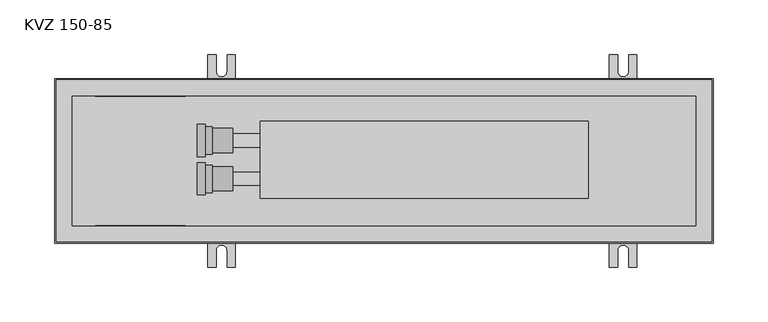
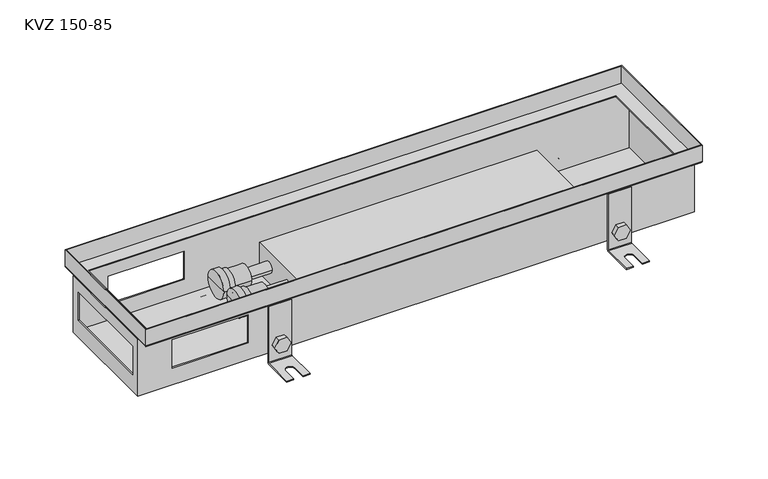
"""IFC4 building model written with IfcOpenShell, lengths in millimetres: proxy geometry, TECHNO_Конвектор встраиваемый_Power_KVZ_150_65-85-105 : KVZ 150-85."""

from ifc_helpers import new_model, si_unit, point, frame, frame_2d, origin, place, context, project, spatial, polyline, circle_curve, ellipse_curve, trimmed, segment, composite_curve, outline, extrude, faceted_brep, source, transform, mapped, element, save
from ifc_brep_helpers import plane_surface, cylinder_surface, revolved_surface, advanced_brep


def kvz_150_85_427afdff(model_context):
    return source(origin(), model_context, "Body", "SolidModel", [
        extrude(outline(composite_curve([segment(trimmed(circle_curve(frame_2d((-75.5, 518.0)), 7.5), [point((-75.5, 510.5))], [point((-75.5, 525.5))], False, "CARTESIAN"), True, "CONTINUOUS"), segment(trimmed(circle_curve(frame_2d((-75.5, 518.0)), 7.5), [point((-75.5, 525.5))], [point((-75.5, 510.5))], False, "CARTESIAN"), True, "CONTINUOUS")], self_intersect=False)), frame((0.0, 60.2, 0.0), z_axis=(0.0, 1.0, 0.0), x_axis=(0.0, 0.0, 1.0)), (0.0, 0.0, 1.0), 1.5),
        extrude(outline(polyline([(-75.5, 509.339746), (-83.0, 513.669873), (-83.0, 522.330127), (-75.5, 526.660254), (-68.0, 522.330127), (-68.0, 513.669873), (-75.5, 509.339746)])), frame((0.0, 62.9, 0.0), z_axis=(0.0, 1.0, 0.0), x_axis=(0.0, 0.0, 1.0)), (0.0, 0.0, 1.0), 5.1),
        advanced_brep(
        [(530.5, 62.9, -30.5), (530.5, 61.7, -30.5), (530.5, 61.7, -93.5), (530.5, 63.7, -95.5), (530.5, 96.7, -95.5), (530.5, 96.7, -94.3), (530.5, 63.7, -94.3), (530.5, 62.9, -93.5), (505.5, 62.9, -30.5), (505.5, 62.9, -93.5), (505.5, 63.7, -94.3), (505.5, 96.7, -94.3), (505.5, 96.7, -95.5), (505.5, 63.7, -95.5), (505.5, 61.7, -93.5), (505.5, 61.7, -30.5), (523.0, 96.7, -94.3), (523.0, 81.7, -94.3), (513.0, 81.7, -94.3), (513.0, 96.7, -94.3), (513.0, 96.7, -95.5), (523.0, 96.7, -95.5), (513.0, 81.7, -95.5), (523.0, 81.7, -95.5)],
        [
            (0, 1),
            (1, 2),
            (2, 3, circle_curve(frame((530.5, 63.7, -93.5), z_axis=(1.0, 0.0, 0.0), x_axis=(0.0, 1.0, 0.0)), 2.0)),
            (3, 4),
            (4, 5),
            (5, 6),
            (6, 7, circle_curve(frame((530.5, 63.7, -93.5), z_axis=(-1.0, 0.0, 0.0), x_axis=(0.0, 1.0, 0.0)), 0.8)),
            (7, 0),
            (8, 9),
            (9, 10, circle_curve(frame((505.5, 63.7, -93.5), z_axis=(1.0, 0.0, 0.0), x_axis=(0.0, 1.0, 0.0)), 0.8)),
            (10, 11),
            (11, 12),
            (12, 13),
            (13, 14, circle_curve(frame((505.5, 63.7, -93.5), z_axis=(-1.0, 0.0, 0.0), x_axis=(0.0, 1.0, 0.0)), 2.0)),
            (14, 15),
            (15, 8),
            (7, 9),
            (8, 0),
            (6, 10),
            (5, 16),
            (16, 17),
            (17, 18, circle_curve(frame((518.0, 81.7, -94.3), z_axis=(0.0, 0.0, -1.0), x_axis=(1.0, 0.0, 0.0)), 5.0)),
            (18, 19),
            (19, 11),
            (19, 20),
            (20, 12),
            (4, 21),
            (21, 16),
            (3, 13),
            (20, 22),
            (22, 23, circle_curve(frame((518.0, 81.7, -95.5), z_axis=(0.0, 0.0, 1.0), x_axis=(1.0, 0.0, 0.0)), 5.0)),
            (23, 21),
            (2, 14),
            (1, 15),
            (18, 22),
            (23, 17),
        ],
        [
            plane_surface(frame((530.5, 62.9, -30.5), z_axis=(1.0, 0.0, 0.0), x_axis=(0.0, 0.0, -1.0))),
            plane_surface(frame((505.5, 62.9, -30.5), z_axis=(-1.0, 0.0, 0.0), x_axis=(0.0, 0.0, 1.0))),
            plane_surface(frame((530.5, 62.9, -30.5), z_axis=(0.0, 1.0, 0.0), x_axis=(-1.0, 0.0, 0.0))),
            revolved_surface(polyline([(505.5, 64.5, -93.5), (530.5, 64.5, -93.5)]), (505.5, 63.7, -93.5), (-1.0, 0.0, 0.0)),
            plane_surface(frame((530.5, 63.7, -94.3), z_axis=(0.0, 0.0, 1.0), x_axis=(-1.0, 0.0, 0.0))),
            plane_surface(frame((530.5, 96.7, -94.3), z_axis=(0.0, 1.0, 0.0), x_axis=(-1.0, 0.0, 0.0))),
            plane_surface(frame((530.5, 96.7, -95.5), z_axis=(0.0, 0.0, -1.0), x_axis=(-1.0, 0.0, 0.0))),
            cylinder_surface(frame((505.5, 63.7, -93.5), z_axis=(1.0, 0.0, 0.0), x_axis=(0.0, 1.0, 0.0)), 2.0),
            plane_surface(frame((530.5, 61.7, -93.5), z_axis=(0.0, -1.0, 0.0), x_axis=(-1.0, 0.0, 0.0))),
            plane_surface(frame((530.5, 61.7, -30.5), z_axis=(0.0, 0.0, 1.0), x_axis=(-1.0, 0.0, 0.0))),
            plane_surface(frame((513.0, 81.7, -94.3), z_axis=(1.0, 0.0, 0.0), x_axis=(0.0, 0.0, -1.0))),
            plane_surface(frame((523.0, 96.7, -94.3), z_axis=(-1.0, 0.0, 0.0), x_axis=(0.0, 0.0, -1.0))),
            revolved_surface(polyline([(523.0, 81.7, -94.3), (523.0, 81.7, -95.5)]), (518.0, 81.7, -95.5), (0.0, 0.0, 1.0)),
        ],
        [
            (0, [[1, 2, 3, 4, 5, 6, 7, 8]]),
            (1, [[9, 10, 11, 12, 13, 14, 15, 16]]),
            (2, [[17, -9, 18, -8]]),
            (3, [[19, -10, -17, -7]]),
            (4, [[20, 21, 22, 23, 24, -11, -19, -6]]),
            (5, [[-24, 25, 26, -12]]),
            (5, [[27, 28, -20, -5]]),
            (6, [[29, -13, -26, 30, 31, 32, -27, -4]]),
            (7, [[33, -14, -29, -3]]),
            (8, [[34, -15, -33, -2]]),
            (9, [[-18, -16, -34, -1]]),
            (10, [[-30, -25, -23, 35]]),
            (11, [[-21, -28, -32, 36]]),
            (12, [[-22, -36, -31, -35]]),
        ],
    ),
        extrude(outline(composite_curve([segment(trimmed(circle_curve(frame_2d((-75.5, 518.0)), 7.5), [point((-75.5, 510.5))], [point((-75.5, 525.5))], False, "CARTESIAN"), True, "CONTINUOUS"), segment(trimmed(circle_curve(frame_2d((-75.5, 518.0)), 7.5), [point((-75.5, 525.5))], [point((-75.5, 510.5))], False, "CARTESIAN"), True, "CONTINUOUS")], self_intersect=False)), frame((0.0, -61.7, 0.0), z_axis=(0.0, 1.0, 0.0), x_axis=(0.0, 0.0, 1.0)), (0.0, 0.0, 1.0), 1.5),
        extrude(outline(polyline([(-75.5, 509.339746), (-83.0, 513.669873), (-83.0, 522.330127), (-75.5, 526.660254), (-68.0, 522.330127), (-68.0, 513.669873), (-75.5, 509.339746)])), frame((0.0, -68.0, 0.0), z_axis=(0.0, 1.0, 0.0), x_axis=(0.0, 0.0, 1.0)), (0.0, 0.0, 1.0), 5.1),
        advanced_brep(
        [(530.5, -62.9, -30.5), (530.5, -62.9, -93.5), (530.5, -63.7, -94.3), (530.5, -96.7, -94.3), (530.5, -96.7, -95.5), (530.5, -63.7, -95.5), (530.5, -61.7, -93.5), (530.5, -61.7, -30.5), (505.5, -62.9, -30.5), (505.5, -61.7, -30.5), (505.5, -61.7, -93.5), (505.5, -63.7, -95.5), (505.5, -96.7, -95.5), (505.5, -96.7, -94.3), (505.5, -63.7, -94.3), (505.5, -62.9, -93.5), (513.0, -96.7, -94.3), (513.0, -81.7, -94.3), (523.0, -81.7, -94.3), (523.0, -96.7, -94.3), (523.0, -96.7, -95.5), (513.0, -96.7, -95.5), (523.0, -81.7, -95.5), (513.0, -81.7, -95.5)],
        [
            (0, 1),
            (1, 2, circle_curve(frame((530.5, -63.7, -93.5), z_axis=(-1.0, 0.0, 0.0), x_axis=(0.0, -1.0, 0.0)), 0.8)),
            (2, 3),
            (3, 4),
            (4, 5),
            (5, 6, circle_curve(frame((530.5, -63.7, -93.5), z_axis=(1.0, 0.0, 0.0), x_axis=(0.0, -1.0, 0.0)), 2.0)),
            (6, 7),
            (7, 0),
            (8, 9),
            (9, 10),
            (10, 11, circle_curve(frame((505.5, -63.7, -93.5), z_axis=(-1.0, 0.0, 0.0), x_axis=(0.0, -1.0, 0.0)), 2.0)),
            (11, 12),
            (12, 13),
            (13, 14),
            (14, 15, circle_curve(frame((505.5, -63.7, -93.5), z_axis=(1.0, 0.0, 0.0), x_axis=(0.0, -1.0, 0.0)), 0.8)),
            (15, 8),
            (0, 8),
            (15, 1),
            (14, 2),
            (13, 16),
            (16, 17),
            (17, 18, circle_curve(frame((518.0, -81.7, -94.3), z_axis=(0.0, 0.0, -1.0), x_axis=(1.0, 0.0, 0.0)), 5.0)),
            (18, 19),
            (19, 3),
            (19, 20),
            (20, 4),
            (12, 21),
            (21, 16),
            (20, 22),
            (22, 23, circle_curve(frame((518.0, -81.7, -95.5), z_axis=(0.0, 0.0, 1.0), x_axis=(1.0, 0.0, 0.0)), 5.0)),
            (23, 21),
            (11, 5),
            (10, 6),
            (9, 7),
            (23, 17),
            (18, 22),
        ],
        [
            plane_surface(frame((530.5, -62.9, -30.5), z_axis=(1.0, 0.0, 0.0), x_axis=(0.0, 0.0, -1.0))),
            plane_surface(frame((505.5, -62.9, -30.5), z_axis=(-1.0, 0.0, 0.0), x_axis=(0.0, 0.0, 1.0))),
            plane_surface(frame((530.5, -62.9, -30.5), z_axis=(0.0, -1.0, 0.0), x_axis=(-1.0, 0.0, 0.0))),
            revolved_surface(polyline([(505.5, -64.5, -93.5), (530.5, -64.5, -93.5)]), (505.5, -63.7, -93.5), (-1.0, 0.0, 0.0)),
            plane_surface(frame((530.5, -63.7, -94.3), z_axis=(0.0, 0.0, 1.0), x_axis=(-1.0, 0.0, 0.0))),
            plane_surface(frame((530.5, -96.7, -94.3), z_axis=(0.0, -1.0, 0.0), x_axis=(-1.0, 0.0, 0.0))),
            plane_surface(frame((530.5, -96.7, -95.5), z_axis=(0.0, 0.0, -1.0), x_axis=(-1.0, 0.0, 0.0))),
            cylinder_surface(frame((505.5, -63.7, -93.5), z_axis=(1.0, 0.0, 0.0), x_axis=(0.0, -1.0, 0.0)), 2.0),
            plane_surface(frame((530.5, -61.7, -93.5), z_axis=(0.0, 1.0, 0.0), x_axis=(-1.0, 0.0, 0.0))),
            plane_surface(frame((530.5, -61.7, -30.5), z_axis=(0.0, 0.0, 1.0), x_axis=(-1.0, 0.0, 0.0))),
            plane_surface(frame((513.0, -81.7, -94.3), z_axis=(1.0, 0.0, 0.0), x_axis=(0.0, 0.0, -1.0))),
            plane_surface(frame((523.0, -96.7, -94.3), z_axis=(-1.0, 0.0, 0.0), x_axis=(0.0, 0.0, -1.0))),
            revolved_surface(polyline([(523.0, -81.7, -94.3), (523.0, -81.7, -95.5)]), (518.0, -81.7, -95.5), (0.0, 0.0, 1.0)),
        ],
        [
            (0, [[1, 2, 3, 4, 5, 6, 7, 8]]),
            (1, [[9, 10, 11, 12, 13, 14, 15, 16]]),
            (2, [[-1, 17, -16, 18]]),
            (3, [[-2, -18, -15, 19]]),
            (4, [[-3, -19, -14, 20, 21, 22, 23, 24]]),
            (5, [[-4, -24, 25, 26]]),
            (5, [[-13, 27, 28, -20]]),
            (6, [[-5, -26, 29, 30, 31, -27, -12, 32]]),
            (7, [[-6, -32, -11, 33]]),
            (8, [[-7, -33, -10, 34]]),
            (9, [[-8, -34, -9, -17]]),
            (10, [[35, -21, -28, -31]]),
            (11, [[36, -29, -25, -23]]),
            (12, [[-35, -30, -36, -22]]),
        ],
    ),
        extrude(outline(composite_curve([segment(trimmed(circle_curve(frame_2d((-75.5, 152.0)), 7.5), [point((-75.5, 144.5))], [point((-75.5, 159.5))], False, "CARTESIAN"), True, "CONTINUOUS"), segment(trimmed(circle_curve(frame_2d((-75.5, 152.0)), 7.5), [point((-75.5, 159.5))], [point((-75.5, 144.5))], False, "CARTESIAN"), True, "CONTINUOUS")], self_intersect=False)), frame((0.0, 60.2, 0.0), z_axis=(0.0, 1.0, 0.0), x_axis=(0.0, 0.0, 1.0)), (0.0, 0.0, 1.0), 1.5),
        extrude(outline(polyline([(-75.5, 143.339746), (-83.0, 147.669873), (-83.0, 156.330127), (-75.5, 160.660254), (-68.0, 156.330127), (-68.0, 147.669873), (-75.5, 143.339746)])), frame((0.0, 62.9, 0.0), z_axis=(0.0, 1.0, 0.0), x_axis=(0.0, 0.0, 1.0)), (0.0, 0.0, 1.0), 5.1),
        advanced_brep(
        [(164.5, 62.9, -30.5), (164.5, 61.7, -30.5), (164.5, 61.7, -93.5), (164.5, 63.7, -95.5), (164.5, 96.7, -95.5), (164.5, 96.7, -94.3), (164.5, 63.7, -94.3), (164.5, 62.9, -93.5), (139.5, 62.9, -30.5), (139.5, 62.9, -93.5), (139.5, 63.7, -94.3), (139.5, 96.7, -94.3), (139.5, 96.7, -95.5), (139.5, 63.7, -95.5), (139.5, 61.7, -93.5), (139.5, 61.7, -30.5), (157.0, 96.7, -94.3), (157.0, 81.7, -94.3), (147.0, 81.7, -94.3), (147.0, 96.7, -94.3), (147.0, 96.7, -95.5), (157.0, 96.7, -95.5), (147.0, 81.7, -95.5), (157.0, 81.7, -95.5)],
        [
            (0, 1),
            (1, 2),
            (2, 3, circle_curve(frame((164.5, 63.7, -93.5), z_axis=(1.0, 0.0, 0.0), x_axis=(0.0, 1.0, 0.0)), 2.0)),
            (3, 4),
            (4, 5),
            (5, 6),
            (6, 7, circle_curve(frame((164.5, 63.7, -93.5), z_axis=(-1.0, 0.0, 0.0), x_axis=(0.0, 1.0, 0.0)), 0.8)),
            (7, 0),
            (8, 9),
            (9, 10, circle_curve(frame((139.5, 63.7, -93.5), z_axis=(1.0, 0.0, 0.0), x_axis=(0.0, 1.0, 0.0)), 0.8)),
            (10, 11),
            (11, 12),
            (12, 13),
            (13, 14, circle_curve(frame((139.5, 63.7, -93.5), z_axis=(-1.0, 0.0, 0.0), x_axis=(0.0, 1.0, 0.0)), 2.0)),
            (14, 15),
            (15, 8),
            (7, 9),
            (8, 0),
            (6, 10),
            (5, 16),
            (16, 17),
            (17, 18, circle_curve(frame((152.0, 81.7, -94.3), z_axis=(0.0, 0.0, -1.0), x_axis=(1.0, 0.0, 0.0)), 5.0)),
            (18, 19),
            (19, 11),
            (19, 20),
            (20, 12),
            (4, 21),
            (21, 16),
            (3, 13),
            (20, 22),
            (22, 23, circle_curve(frame((152.0, 81.7, -95.5), z_axis=(0.0, 0.0, 1.0), x_axis=(1.0, 0.0, 0.0)), 5.0)),
            (23, 21),
            (2, 14),
            (1, 15),
            (18, 22),
            (23, 17),
        ],
        [
            plane_surface(frame((164.5, 62.9, -30.5), z_axis=(1.0, 0.0, 0.0), x_axis=(0.0, 0.0, -1.0))),
            plane_surface(frame((139.5, 62.9, -30.5), z_axis=(-1.0, 0.0, 0.0), x_axis=(0.0, 0.0, 1.0))),
            plane_surface(frame((164.5, 62.9, -30.5), z_axis=(0.0, 1.0, 0.0), x_axis=(-1.0, 0.0, 0.0))),
            revolved_surface(polyline([(139.5, 64.5, -93.5), (164.5, 64.5, -93.5)]), (139.5, 63.7, -93.5), (-1.0, 0.0, 0.0)),
            plane_surface(frame((164.5, 63.7, -94.3), z_axis=(0.0, 0.0, 1.0), x_axis=(-1.0, 0.0, 0.0))),
            plane_surface(frame((164.5, 96.7, -94.3), z_axis=(0.0, 1.0, 0.0), x_axis=(-1.0, 0.0, 0.0))),
            plane_surface(frame((164.5, 96.7, -95.5), z_axis=(0.0, 0.0, -1.0), x_axis=(-1.0, 0.0, 0.0))),
            cylinder_surface(frame((139.5, 63.7, -93.5), z_axis=(1.0, 0.0, 0.0), x_axis=(0.0, 1.0, 0.0)), 2.0),
            plane_surface(frame((164.5, 61.7, -93.5), z_axis=(0.0, -1.0, 0.0), x_axis=(-1.0, 0.0, 0.0))),
            plane_surface(frame((164.5, 61.7, -30.5), z_axis=(0.0, 0.0, 1.0), x_axis=(-1.0, 0.0, 0.0))),
            plane_surface(frame((147.0, 81.7, -94.3), z_axis=(1.0, 0.0, 0.0), x_axis=(0.0, 0.0, -1.0))),
            plane_surface(frame((157.0, 96.7, -94.3), z_axis=(-1.0, 0.0, 0.0), x_axis=(0.0, 0.0, -1.0))),
            revolved_surface(polyline([(157.0, 81.7, -94.3), (157.0, 81.7, -95.5)]), (152.0, 81.7, -95.5), (0.0, 0.0, 1.0)),
        ],
        [
            (0, [[1, 2, 3, 4, 5, 6, 7, 8]]),
            (1, [[9, 10, 11, 12, 13, 14, 15, 16]]),
            (2, [[17, -9, 18, -8]]),
            (3, [[19, -10, -17, -7]]),
            (4, [[20, 21, 22, 23, 24, -11, -19, -6]]),
            (5, [[-24, 25, 26, -12]]),
            (5, [[27, 28, -20, -5]]),
            (6, [[29, -13, -26, 30, 31, 32, -27, -4]]),
            (7, [[33, -14, -29, -3]]),
            (8, [[34, -15, -33, -2]]),
            (9, [[-18, -16, -34, -1]]),
            (10, [[-30, -25, -23, 35]]),
            (11, [[-21, -28, -32, 36]]),
            (12, [[-22, -36, -31, -35]]),
        ],
    ),
        extrude(outline(composite_curve([segment(trimmed(circle_curve(frame_2d((-75.5, 152.0)), 7.5), [point((-75.5, 144.5))], [point((-75.5, 159.5))], False, "CARTESIAN"), True, "CONTINUOUS"), segment(trimmed(circle_curve(frame_2d((-75.5, 152.0)), 7.5), [point((-75.5, 159.5))], [point((-75.5, 144.5))], False, "CARTESIAN"), True, "CONTINUOUS")], self_intersect=False)), frame((0.0, -61.7, 0.0), z_axis=(0.0, 1.0, 0.0), x_axis=(0.0, 0.0, 1.0)), (0.0, 0.0, 1.0), 1.5),
        extrude(outline(polyline([(-75.5, 143.339746), (-83.0, 147.669873), (-83.0, 156.330127), (-75.5, 160.660254), (-68.0, 156.330127), (-68.0, 147.669873), (-75.5, 143.339746)])), frame((0.0, -68.0, 0.0), z_axis=(0.0, 1.0, 0.0), x_axis=(0.0, 0.0, 1.0)), (0.0, 0.0, 1.0), 5.1),
        advanced_brep(
        [(164.5, -62.9, -30.5), (164.5, -62.9, -93.5), (164.5, -63.7, -94.3), (164.5, -96.7, -94.3), (164.5, -96.7, -95.5), (164.5, -63.7, -95.5), (164.5, -61.7, -93.5), (164.5, -61.7, -30.5), (139.5, -62.9, -30.5), (139.5, -61.7, -30.5), (139.5, -61.7, -93.5), (139.5, -63.7, -95.5), (139.5, -96.7, -95.5), (139.5, -96.7, -94.3), (139.5, -63.7, -94.3), (139.5, -62.9, -93.5), (147.0, -96.7, -94.3), (147.0, -81.7, -94.3), (157.0, -81.7, -94.3), (157.0, -96.7, -94.3), (157.0, -96.7, -95.5), (147.0, -96.7, -95.5), (157.0, -81.7, -95.5), (147.0, -81.7, -95.5)],
        [
            (0, 1),
            (1, 2, circle_curve(frame((164.5, -63.7, -93.5), z_axis=(-1.0, 0.0, 0.0), x_axis=(0.0, -1.0, 0.0)), 0.8)),
            (2, 3),
            (3, 4),
            (4, 5),
            (5, 6, circle_curve(frame((164.5, -63.7, -93.5), z_axis=(1.0, 0.0, 0.0), x_axis=(0.0, -1.0, 0.0)), 2.0)),
            (6, 7),
            (7, 0),
            (8, 9),
            (9, 10),
            (10, 11, circle_curve(frame((139.5, -63.7, -93.5), z_axis=(-1.0, 0.0, 0.0), x_axis=(0.0, -1.0, 0.0)), 2.0)),
            (11, 12),
            (12, 13),
            (13, 14),
            (14, 15, circle_curve(frame((139.5, -63.7, -93.5), z_axis=(1.0, 0.0, 0.0), x_axis=(0.0, -1.0, 0.0)), 0.8)),
            (15, 8),
            (0, 8),
            (15, 1),
            (14, 2),
            (13, 16),
            (16, 17),
            (17, 18, circle_curve(frame((152.0, -81.7, -94.3), z_axis=(0.0, 0.0, -1.0), x_axis=(1.0, 0.0, 0.0)), 5.0)),
            (18, 19),
            (19, 3),
            (19, 20),
            (20, 4),
            (12, 21),
            (21, 16),
            (20, 22),
            (22, 23, circle_curve(frame((152.0, -81.7, -95.5), z_axis=(0.0, 0.0, 1.0), x_axis=(1.0, 0.0, 0.0)), 5.0)),
            (23, 21),
            (11, 5),
            (10, 6),
            (9, 7),
            (23, 17),
            (18, 22),
        ],
        [
            plane_surface(frame((164.5, -62.9, -30.5), z_axis=(1.0, 0.0, 0.0), x_axis=(0.0, 0.0, -1.0))),
            plane_surface(frame((139.5, -62.9, -30.5), z_axis=(-1.0, 0.0, 0.0), x_axis=(0.0, 0.0, 1.0))),
            plane_surface(frame((164.5, -62.9, -30.5), z_axis=(0.0, -1.0, 0.0), x_axis=(-1.0, 0.0, 0.0))),
            revolved_surface(polyline([(139.5, -64.5, -93.5), (164.5, -64.5, -93.5)]), (139.5, -63.7, -93.5), (-1.0, 0.0, 0.0)),
            plane_surface(frame((164.5, -63.7, -94.3), z_axis=(0.0, 0.0, 1.0), x_axis=(-1.0, 0.0, 0.0))),
            plane_surface(frame((164.5, -96.7, -94.3), z_axis=(0.0, -1.0, 0.0), x_axis=(-1.0, 0.0, 0.0))),
            plane_surface(frame((164.5, -96.7, -95.5), z_axis=(0.0, 0.0, -1.0), x_axis=(-1.0, 0.0, 0.0))),
            cylinder_surface(frame((139.5, -63.7, -93.5), z_axis=(1.0, 0.0, 0.0), x_axis=(0.0, -1.0, 0.0)), 2.0),
            plane_surface(frame((164.5, -61.7, -93.5), z_axis=(0.0, 1.0, 0.0), x_axis=(-1.0, 0.0, 0.0))),
            plane_surface(frame((164.5, -61.7, -30.5), z_axis=(0.0, 0.0, 1.0), x_axis=(-1.0, 0.0, 0.0))),
            plane_surface(frame((147.0, -81.7, -94.3), z_axis=(1.0, 0.0, 0.0), x_axis=(0.0, 0.0, -1.0))),
            plane_surface(frame((157.0, -96.7, -94.3), z_axis=(-1.0, 0.0, 0.0), x_axis=(0.0, 0.0, -1.0))),
            revolved_surface(polyline([(157.0, -81.7, -94.3), (157.0, -81.7, -95.5)]), (152.0, -81.7, -95.5), (0.0, 0.0, 1.0)),
        ],
        [
            (0, [[1, 2, 3, 4, 5, 6, 7, 8]]),
            (1, [[9, 10, 11, 12, 13, 14, 15, 16]]),
            (2, [[-1, 17, -16, 18]]),
            (3, [[-2, -18, -15, 19]]),
            (4, [[-3, -19, -14, 20, 21, 22, 23, 24]]),
            (5, [[-4, -24, 25, 26]]),
            (5, [[-13, 27, 28, -20]]),
            (6, [[-5, -26, 29, 30, 31, -27, -12, 32]]),
            (7, [[-6, -32, -11, 33]]),
            (8, [[-7, -33, -10, 34]]),
            (9, [[-8, -34, -9, -17]]),
            (10, [[35, -21, -28, -31]]),
            (11, [[36, -29, -25, -23]]),
            (12, [[-35, -30, -36, -22]]),
        ],
    ),
        extrude(outline(composite_curve([segment(trimmed(circle_curve(frame_2d((-16.3, -51.1)), 6.0), [point((-22.3, -51.1))], [point((-10.3, -51.1))], False, "CARTESIAN"), True, "CONTINUOUS"), segment(trimmed(circle_curve(frame_2d((-16.3, -51.1)), 6.0), [point((-10.3, -51.1))], [point((-22.3, -51.1))], False, "CARTESIAN"), True, "CONTINUOUS")], self_intersect=False)), frame((162.0, 0.0, 0.0), z_axis=(1.0, 0.0, 0.0), x_axis=(0.0, 1.0, 0.0)), (0.0, 0.0, 1.0), 25.0),
        advanced_brep(
        [(162.0, 7.7, -51.1), (162.0, 29.7, -51.1), (162.0, 18.7, -51.1), (143.5, 7.7, -51.1), (143.5, 29.7, -51.1), (143.5, 6.2, -51.1), (143.5, 31.2, -51.1), (137.0, 6.2, -51.1), (137.0, 31.2, -51.1), (137.0, 4.0, -51.1), (137.0, 33.4, -51.1), (130.0, 4.0, -51.1), (130.0, 33.4, -51.1), (130.0, 18.7, -51.1)],
        [
            (0, 1, circle_curve(frame((162.0, 18.7, -51.1), z_axis=(1.0, 0.0, 0.0), x_axis=(0.0, 1.0, 0.0)), 11.0)),
            (1, 2),
            (2, 0),
            (1, 0, circle_curve(frame((162.0, 18.7, -51.1), z_axis=(1.0, 0.0, 0.0), x_axis=(0.0, 1.0, 0.0)), 11.0)),
            (3, 4, circle_curve(frame((143.5, 18.7, -51.1), z_axis=(1.0, 0.0, 0.0), x_axis=(0.0, 1.0, 0.0)), 11.0)),
            (4, 1),
            (0, 3),
            (4, 3, circle_curve(frame((143.5, 18.7, -51.1), z_axis=(1.0, 0.0, 0.0), x_axis=(0.0, 1.0, 0.0)), 11.0)),
            (5, 6, circle_curve(frame((143.5, 18.7, -51.1), z_axis=(1.0, 0.0, 0.0), x_axis=(0.0, 1.0, 0.0)), 12.5)),
            (6, 4),
            (3, 5),
            (6, 5, circle_curve(frame((143.5, 18.7, -51.1), z_axis=(1.0, 0.0, 0.0), x_axis=(0.0, 1.0, 0.0)), 12.5)),
            (7, 8, circle_curve(frame((137.0, 18.7, -51.1), z_axis=(1.0, 0.0, 0.0), x_axis=(0.0, 1.0, 0.0)), 12.5)),
            (8, 6),
            (5, 7),
            (8, 7, circle_curve(frame((137.0, 18.7, -51.1), z_axis=(1.0, 0.0, 0.0), x_axis=(0.0, 1.0, 0.0)), 12.5)),
            (9, 10, circle_curve(frame((137.0, 18.7, -51.1), z_axis=(1.0, 0.0, 0.0), x_axis=(0.0, 1.0, 0.0)), 14.7)),
            (10, 8),
            (7, 9),
            (10, 9, circle_curve(frame((137.0, 18.7, -51.1), z_axis=(1.0, 0.0, 0.0), x_axis=(0.0, 1.0, 0.0)), 14.7)),
            (11, 12, circle_curve(frame((130.0, 18.7, -51.1), z_axis=(1.0, 0.0, 0.0), x_axis=(0.0, 1.0, 0.0)), 14.7)),
            (12, 10),
            (9, 11),
            (12, 11, circle_curve(frame((130.0, 18.7, -51.1), z_axis=(1.0, 0.0, 0.0), x_axis=(0.0, 1.0, 0.0)), 14.7)),
            (13, 12),
            (11, 13),
        ],
        [
            plane_surface(frame((162.0, 18.7, -51.1), z_axis=(1.0, 0.0, 0.0), x_axis=(0.0, 1.0, 0.0))),
            cylinder_surface(frame((120.0, 18.7, -51.1), z_axis=(-1.0, 0.0, 0.0), x_axis=(0.0, 1.0, 0.0)), 11.0),
            plane_surface(frame((143.5, 18.7, -51.1), z_axis=(1.0, 0.0, 0.0), x_axis=(0.0, 1.0, 0.0))),
            cylinder_surface(frame((120.0, 18.7, -51.1), z_axis=(-1.0, 0.0, 0.0), x_axis=(0.0, 1.0, 0.0)), 12.5),
            plane_surface(frame((137.0, 18.7, -51.1), z_axis=(1.0, 0.0, 0.0), x_axis=(0.0, 1.0, 0.0))),
            cylinder_surface(frame((120.0, 18.7, -51.1), z_axis=(-1.0, 0.0, 0.0), x_axis=(0.0, 1.0, 0.0)), 14.7),
            plane_surface(frame((130.0, 18.7, -51.1), z_axis=(-1.0, 0.0, 0.0), x_axis=(0.0, 1.0, 0.0))),
        ],
        [
            (0, [[1, 2, 3]]),
            (0, [[4, -3, -2]]),
            (1, [[5, 6, -1, 7]]),
            (1, [[8, -7, -4, -6]]),
            (2, [[9, 10, -5, 11]]),
            (2, [[12, -11, -8, -10]]),
            (3, [[13, 14, -9, 15]]),
            (3, [[16, -15, -12, -14]]),
            (4, [[17, 18, -13, 19]]),
            (4, [[20, -19, -16, -18]]),
            (5, [[21, 22, -17, 23]]),
            (5, [[24, -23, -20, -22]]),
            (6, [[25, -21, 26]]),
            (6, [[-26, -24, -25]]),
        ],
    ),
        advanced_brep(
        [(162.0, -27.3, -51.1), (162.0, -5.3, -51.1), (162.0, -16.3, -51.1), (143.5, -27.3, -51.1), (143.5, -5.3, -51.1), (143.5, -28.8, -51.1), (143.5, -3.8, -51.1), (137.0, -28.8, -51.1), (137.0, -3.8, -51.1), (137.0, -31.0, -51.1), (137.0, -1.6, -51.1), (130.0, -31.0, -51.1), (130.0, -1.6, -51.1), (130.0, -16.3, -51.1)],
        [
            (0, 1, circle_curve(frame((162.0, -16.3, -51.1), z_axis=(1.0, 0.0, 0.0), x_axis=(0.0, 1.0, 0.0)), 11.0)),
            (1, 2),
            (2, 0),
            (1, 0, circle_curve(frame((162.0, -16.3, -51.1), z_axis=(1.0, 0.0, 0.0), x_axis=(0.0, 1.0, 0.0)), 11.0)),
            (3, 4, circle_curve(frame((143.5, -16.3, -51.1), z_axis=(1.0, 0.0, 0.0), x_axis=(0.0, 1.0, 0.0)), 11.0)),
            (4, 1),
            (0, 3),
            (4, 3, circle_curve(frame((143.5, -16.3, -51.1), z_axis=(1.0, 0.0, 0.0), x_axis=(0.0, 1.0, 0.0)), 11.0)),
            (5, 6, circle_curve(frame((143.5, -16.3, -51.1), z_axis=(1.0, 0.0, 0.0), x_axis=(0.0, 1.0, 0.0)), 12.5)),
            (6, 4),
            (3, 5),
            (6, 5, circle_curve(frame((143.5, -16.3, -51.1), z_axis=(1.0, 0.0, 0.0), x_axis=(0.0, 1.0, 0.0)), 12.5)),
            (7, 8, circle_curve(frame((137.0, -16.3, -51.1), z_axis=(1.0, 0.0, 0.0), x_axis=(0.0, 1.0, 0.0)), 12.5)),
            (8, 6),
            (5, 7),
            (8, 7, circle_curve(frame((137.0, -16.3, -51.1), z_axis=(1.0, 0.0, 0.0), x_axis=(0.0, 1.0, 0.0)), 12.5)),
            (9, 10, circle_curve(frame((137.0, -16.3, -51.1), z_axis=(1.0, 0.0, 0.0), x_axis=(0.0, 1.0, 0.0)), 14.7)),
            (10, 8),
            (7, 9),
            (10, 9, circle_curve(frame((137.0, -16.3, -51.1), z_axis=(1.0, 0.0, 0.0), x_axis=(0.0, 1.0, 0.0)), 14.7)),
            (11, 12, circle_curve(frame((130.0, -16.3, -51.1), z_axis=(1.0, 0.0, 0.0), x_axis=(0.0, 1.0, 0.0)), 14.7)),
            (12, 10),
            (9, 11),
            (12, 11, circle_curve(frame((130.0, -16.3, -51.1), z_axis=(1.0, 0.0, 0.0), x_axis=(0.0, 1.0, 0.0)), 14.7)),
            (13, 12),
            (11, 13),
        ],
        [
            plane_surface(frame((162.0, -16.3, -51.1), z_axis=(1.0, 0.0, 0.0), x_axis=(0.0, 1.0, 0.0))),
            cylinder_surface(frame((120.0, -16.3, -51.1), z_axis=(-1.0, 0.0, 0.0), x_axis=(0.0, 1.0, 0.0)), 11.0),
            plane_surface(frame((143.5, -16.3, -51.1), z_axis=(1.0, 0.0, 0.0), x_axis=(0.0, 1.0, 0.0))),
            cylinder_surface(frame((120.0, -16.3, -51.1), z_axis=(-1.0, 0.0, 0.0), x_axis=(0.0, 1.0, 0.0)), 12.5),
            plane_surface(frame((137.0, -16.3, -51.1), z_axis=(1.0, 0.0, 0.0), x_axis=(0.0, 1.0, 0.0))),
            cylinder_surface(frame((120.0, -16.3, -51.1), z_axis=(-1.0, 0.0, 0.0), x_axis=(0.0, 1.0, 0.0)), 14.7),
            plane_surface(frame((130.0, -16.3, -51.1), z_axis=(-1.0, 0.0, 0.0), x_axis=(0.0, 1.0, 0.0))),
        ],
        [
            (0, [[1, 2, 3]]),
            (0, [[4, -3, -2]]),
            (1, [[5, 6, -1, 7]]),
            (1, [[8, -7, -4, -6]]),
            (2, [[9, 10, -5, 11]]),
            (2, [[12, -11, -8, -10]]),
            (3, [[13, 14, -9, 15]]),
            (3, [[16, -15, -12, -14]]),
            (4, [[17, 18, -13, 19]]),
            (4, [[20, -19, -16, -18]]),
            (5, [[21, 22, -17, 23]]),
            (5, [[24, -23, -20, -22]]),
            (6, [[25, -21, 26]]),
            (6, [[-26, -24, -25]]),
        ],
    ),
        extrude(outline(composite_curve([segment(trimmed(circle_curve(frame_2d((18.7, -51.1)), 6.0), [point((12.7, -51.1))], [point((24.7, -51.1))], False, "CARTESIAN"), True, "CONTINUOUS"), segment(trimmed(circle_curve(frame_2d((18.7, -51.1)), 6.0), [point((24.7, -51.1))], [point((12.7, -51.1))], False, "CARTESIAN"), True, "CONTINUOUS")], self_intersect=False)), frame((162.0, 0.0, 0.0), z_axis=(1.0, 0.0, 0.0), x_axis=(0.0, 1.0, 0.0)), (0.0, 0.0, 1.0), 25.0),
        extrude(outline(polyline([(486.0, 36.2), (486.0, -33.8), (187.0, -33.8), (187.0, 36.2), (486.0, 36.2)])), frame((0.0, 0.0, -68.6), z_axis=(0.0, 0.0, 1.0), x_axis=(1.0, 0.0, 0.0)), (0.0, 0.0, 1.0), 35.0),
        faceted_brep([(598.8, -59.0, -83.8), (598.8, 59.0, -83.8), (1.2, 59.0, -83.8), (1.2, -59.0, -83.8), (0.0, -60.2, -85.0), (0.0, 60.2, -85.0), (600.0, 60.2, -85.0), (600.0, -60.2, -85.0), (600.0, -60.2, -20.5), (0.0, -60.2, -20.5), (37.0, -60.2, -33.8), (119.0, -60.2, -33.8), (119.0, -60.2, -65.8), (37.0, -60.2, -65.8), (600.0, 60.2, -20.5), (0.0, 60.2, -20.5), (119.0, 60.2, -33.8), (37.0, 60.2, -33.8), (37.0, 60.2, -65.8), (119.0, 60.2, -65.8), (0.0, 51.0, -65.8), (0.0, 51.0, -33.8), (0.0, -51.0, -33.8), (0.0, -51.0, -65.8), (598.8, -59.0, -20.5), (598.8, 59.0, -20.5), (1.2, -59.0, -20.5), (119.0, -59.0, -33.8), (37.0, -59.0, -33.8), (37.0, -59.0, -65.8), (119.0, -59.0, -65.8), (1.2, 59.0, -20.5), (1.2, 51.0, -33.8), (1.2, 51.0, -65.8), (1.2, -51.0, -65.8), (1.2, -51.0, -33.8), (37.0, 59.0, -33.8), (119.0, 59.0, -33.8), (119.0, 59.0, -65.8), (37.0, 59.0, -65.8)], [[[0, 1, 2, 3]], [[4, 5, 6, 7]], [[4, 7, 8, 9], [10, 11, 12, 13]], [[7, 6, 14, 8]], [[6, 5, 15, 14], [16, 17, 18, 19]], [[5, 4, 9, 15], [20, 21, 22, 23]], [[24, 25, 1, 0]], [[26, 24, 0, 3], [27, 28, 29, 30]], [[31, 26, 3, 2], [32, 33, 34, 35]], [[25, 31, 2, 1], [36, 37, 38, 39]], [[8, 14, 15, 9], [25, 24, 26, 31]], [[27, 11, 10, 28]], [[16, 37, 36, 17]], [[28, 10, 13, 29]], [[17, 36, 39, 18]], [[29, 13, 12, 30]], [[18, 39, 38, 19]], [[11, 27, 30, 12]], [[37, 16, 19, 38]], [[20, 33, 32, 21]], [[21, 32, 35, 22]], [[22, 35, 34, 23]], [[33, 20, 23, 34]]]),
        advanced_brep(
        [(584.0, 59.0, -19.3), (584.0, 59.0, -20.5), (584.0, -59.0, -20.5), (584.0, -59.0, -19.3), (598.8, 73.8, 0.0), (598.8, 73.8, -19.3), (598.8, -73.8, -19.3), (598.8, -73.8, 0.0), (600.0, 75.0, -18.5), (600.0, 75.0, 0.0), (600.0, -75.0, 0.0), (600.0, -75.0, -18.5), (16.0, -59.0, -20.5), (16.0, -59.0, -19.3), (1.2, -73.8, -19.3), (1.2, -73.8, 0.0), (0.0, -75.0, 0.0), (0.0, -75.0, -18.5), (16.0, 59.0, -20.5), (16.0, 59.0, -19.3), (1.2, 73.8, -19.3), (1.2, 73.8, 0.0), (0.0, 75.0, 0.0), (0.0, 75.0, -18.5), (598.0, -73.0, -20.5), (2.0, -73.0, -20.5), (2.0, 73.0, -20.5), (598.0, 73.0, -20.5)],
        [
            (0, 1),
            (1, 2),
            (2, 3),
            (3, 0),
            (4, 5),
            (5, 6),
            (6, 7),
            (7, 4),
            (8, 9),
            (9, 10),
            (10, 11),
            (11, 8),
            (2, 12),
            (12, 13),
            (13, 3),
            (6, 14),
            (14, 15),
            (15, 7),
            (10, 16),
            (16, 17),
            (17, 11),
            (12, 18),
            (18, 19),
            (19, 13),
            (14, 20),
            (20, 21),
            (21, 15),
            (16, 22),
            (22, 23),
            (23, 17),
            (24, 25),
            (25, 26),
            (26, 27),
            (27, 24),
            (1, 18),
            (0, 19),
            (5, 20),
            (4, 21),
            (9, 22),
            (8, 23),
            (27, 8, ellipse_curve(frame((598.0, 73.0, -18.5), z_axis=(0.7071067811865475, -0.7071067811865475, 0.0), x_axis=(0.7071067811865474, 0.7071067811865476, 0.0)), 2.8284271, 2.0)),
            (11, 24, ellipse_curve(frame((598.0, -73.0, -18.5), z_axis=(0.7071067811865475, 0.7071067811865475, 0.0), x_axis=(-0.7071067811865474, 0.7071067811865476, 0.0)), 2.8284271, 2.0)),
            (17, 25, ellipse_curve(frame((2.0, -73.0, -18.5), z_axis=(0.7071067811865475, -0.7071067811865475, 0.0), x_axis=(0.7071067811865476, 0.7071067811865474, 0.0)), 2.8284271, 2.0)),
            (23, 26, ellipse_curve(frame((2.0, 73.0, -18.5), z_axis=(-0.7071067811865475, -0.7071067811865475, 0.0), x_axis=(0.7071067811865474, -0.7071067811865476, 0.0)), 2.8284271, 2.0)),
        ],
        [
            plane_surface(frame((584.0, 59.0, -20.5), z_axis=(-1.0, 0.0, 0.0), x_axis=(0.0, -1.0, 0.0))),
            plane_surface(frame((598.8, 73.8, -19.3), z_axis=(-1.0, 0.0, 0.0), x_axis=(0.0, -1.0, 0.0))),
            plane_surface(frame((600.0, 75.0, 0.0), z_axis=(1.0, 0.0, 0.0), x_axis=(0.0, -1.0, 0.0))),
            plane_surface(frame((584.0, -59.0, -20.5), z_axis=(0.0, 1.0, 0.0), x_axis=(-1.0, 0.0, 0.0))),
            plane_surface(frame((598.8, -73.8, -19.3), z_axis=(0.0, 1.0, 0.0), x_axis=(-1.0, 0.0, 0.0))),
            plane_surface(frame((600.0, -75.0, 0.0), z_axis=(0.0, -1.0, 0.0), x_axis=(-1.0, 0.0, 0.0))),
            plane_surface(frame((16.0, -59.0, -20.5), z_axis=(1.0, 0.0, 0.0), x_axis=(0.0, 1.0, 0.0))),
            plane_surface(frame((1.2, -73.8, -19.3), z_axis=(1.0, 0.0, 0.0), x_axis=(0.0, 1.0, 0.0))),
            plane_surface(frame((0.0, -75.0, 0.0), z_axis=(-1.0, 0.0, 0.0), x_axis=(0.0, 1.0, 0.0))),
            plane_surface(frame((2.0, 73.0, -20.5), z_axis=(0.0, 0.0, -1.0), x_axis=(1.0, 0.0, 0.0))),
            plane_surface(frame((16.0, 59.0, -20.5), z_axis=(0.0, -1.0, 0.0), x_axis=(1.0, 0.0, 0.0))),
            plane_surface(frame((16.0, 59.0, -19.3), z_axis=(0.0, 0.0, 1.0), x_axis=(1.0, 0.0, 0.0))),
            plane_surface(frame((1.2, 73.8, -19.3), z_axis=(0.0, -1.0, 0.0), x_axis=(1.0, 0.0, 0.0))),
            plane_surface(frame((1.2, 73.8, 0.0), z_axis=(0.0, 0.0, 1.0), x_axis=(1.0, 0.0, 0.0))),
            plane_surface(frame((0.0, 75.0, 0.0), z_axis=(0.0, 1.0, 0.0), x_axis=(1.0, 0.0, 0.0))),
            cylinder_surface(frame((598.0, 75.0, -18.5), z_axis=(0.0, 1.0, 0.0), x_axis=(1.0, 0.0, 0.0)), 2.0),
            cylinder_surface(frame((600.0, -73.0, -18.5), z_axis=(1.0, 0.0, 0.0), x_axis=(0.0, -1.0, 0.0)), 2.0),
            cylinder_surface(frame((2.0, -75.0, -18.5), z_axis=(0.0, -1.0, 0.0), x_axis=(-1.0, 0.0, 0.0)), 2.0),
            cylinder_surface(frame((0.0, 73.0, -18.5), z_axis=(-1.0, 0.0, 0.0), x_axis=(0.0, 1.0, 0.0)), 2.0),
        ],
        [
            (0, [[1, 2, 3, 4]]),
            (1, [[5, 6, 7, 8]]),
            (2, [[9, 10, 11, 12]]),
            (3, [[-3, 13, 14, 15]]),
            (4, [[-7, 16, 17, 18]]),
            (5, [[-11, 19, 20, 21]]),
            (6, [[-14, 22, 23, 24]]),
            (7, [[-17, 25, 26, 27]]),
            (8, [[-20, 28, 29, 30]]),
            (9, [[31, 32, 33, 34], [35, -22, -13, -2]]),
            (10, [[-23, -35, -1, 36]]),
            (11, [[37, -25, -16, -6], [-15, -24, -36, -4]]),
            (12, [[-26, -37, -5, 38]]),
            (13, [[39, -28, -19, -10], [-18, -27, -38, -8]]),
            (14, [[-29, -39, -9, 40]]),
            (15, [[41, -12, 42, -34]]),
            (16, [[-42, -21, 43, -31]]),
            (17, [[-43, -30, 44, -32]]),
            (18, [[-44, -40, -41, -33]]),
        ],
    ),
    ])


if __name__ == "__main__":
    model = new_model("IFC4")
    model_context = context("Model", 3, world=origin())
    ifc_project = project(units=[si_unit("LENGTHUNIT", "METRE", prefix="MILLI")], contexts=[model_context])
    site = spatial("IfcSite", under=ifc_project)
    building = spatial("IfcBuilding", under=site)
    placement = place(None, origin())
    kvz_150_85_shape = kvz_150_85_427afdff(model_context)
    element("IfcBuildingElementProxy", 1, Name="TECHNO_Конвектор встраиваемый_Power_KVZ_150_65-85-105 : KVZ 150-85", ObjectType="TECHNO_Конвектор встраиваемый_Power_KVZ_150_65-85-105 : KVZ 150-85", at=placement, inside=building, context=model_context, shape_type="MappedRepresentation", body=[
        mapped(kvz_150_85_shape, transform((0.0, 0.0, 0.0), x_axis=(1.0, 0.0, 0.0), y_axis=(0.0, 1.0, 0.0), z_axis=(0.0, 0.0, 1.0))),
    ])
    save(model, "model.ifc")
